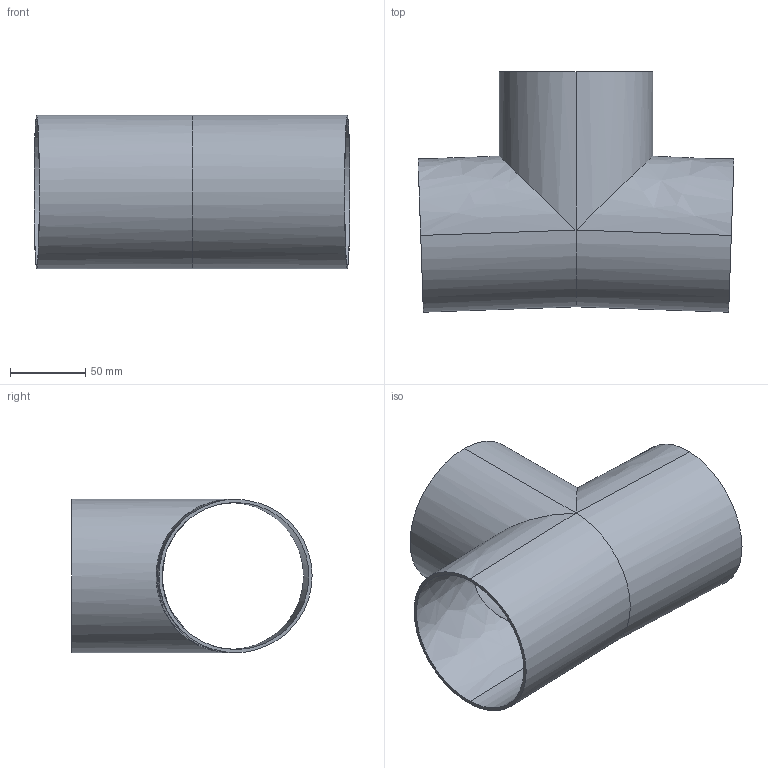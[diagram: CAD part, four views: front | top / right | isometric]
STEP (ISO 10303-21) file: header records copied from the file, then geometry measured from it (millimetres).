
FILE_DESCRIPTION (( 'STEP AP214' ), '1' );
FILE_NAME ('TE7WWW1766L4.0-...STEP', '2016-05-23T05:28:46', ( 'eran' ), ( '' ), 'SwSTEP 2.0', 'SolidWorks 2016', '' );
FILE_SCHEMA (( 'AUTOMOTIVE_DESIGN' ));
Length unit declared in the file: millimetre
Products named in the file (1): TE7WWW1766L4.0-..
Bounding box: 209.29 x 159.14 x 101.6 mm (x, y, z)
Volume: 163811.4 mm3; surface area: 157258.4 mm2
Topology: 1 solids, 1 shells, 15 faces, 30 edges, 16 vertices
Faces by surface type: bspline 8, cylinder 4, plane 3
Entity records: 2077 total; most frequent: CARTESIAN_POINT 1779, ORIENTED_EDGE 60, DIRECTION 40, EDGE_CURVE 30, EDGE_LOOP 18, VERTEX_POINT 16, ADVANCED_FACE 15, FACE_OUTER_BOUND 15
